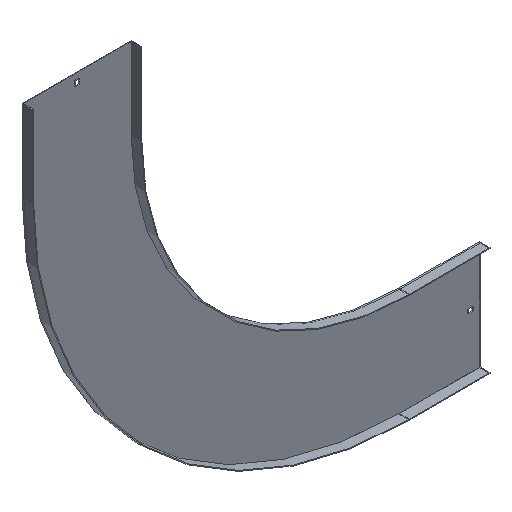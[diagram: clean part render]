
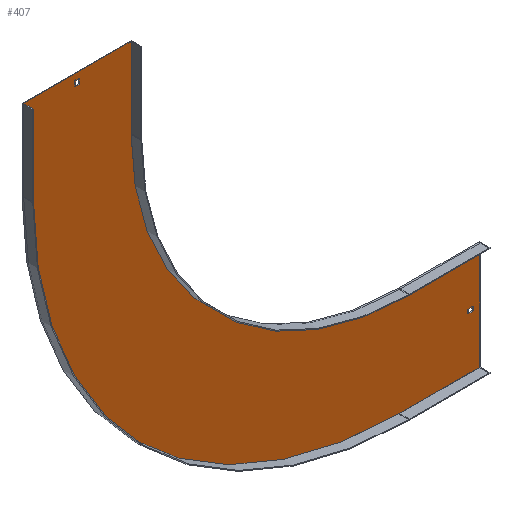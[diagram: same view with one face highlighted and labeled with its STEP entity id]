
A CAD part, isometric view. The second image highlights one B-rep face of the part: STEP entity #407.
In plain terms, the highlighted planar face has unit normal (0, -1, 0).
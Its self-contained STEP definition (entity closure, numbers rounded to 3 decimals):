
#14 = LINE ( 'NONE', #604, #360 ) ;
#15 = ORIENTED_EDGE ( 'NONE', *, *, #248, .F. ) ;
#24 = VERTEX_POINT ( 'NONE', #210 ) ;
#29 = VERTEX_POINT ( 'NONE', #459 ) ;
#35 = CARTESIAN_POINT ( 'NONE',  ( -500., -1.5, 0. ) ) ;
#43 = EDGE_CURVE ( 'NONE', #707, #386, #745, .T. ) ;
#47 = CARTESIAN_POINT ( 'NONE',  ( -603.25, -1.5, 138. ) ) ;
#65 = CARTESIAN_POINT ( 'NONE',  ( 138., -1.5, -603.25 ) ) ;
#67 = CARTESIAN_POINT ( 'NONE',  ( 150., -1.5, -700. ) ) ;
#74 = VERTEX_POINT ( 'NONE', #35 ) ;
#75 = ORIENTED_EDGE ( 'NONE', *, *, #394, .F. ) ;
#77 = ORIENTED_EDGE ( 'NONE', *, *, #829, .F. ) ;
#78 = VECTOR ( 'NONE', #415, 1000. ) ;
#82 = AXIS2_PLACEMENT_3D ( 'NONE', #855, #793, #731 ) ;
#87 = CARTESIAN_POINT ( 'NONE',  ( -701.5, -1.5, 150. ) ) ;
#88 = VERTEX_POINT ( 'NONE', #501 ) ;
#99 = VECTOR ( 'NONE', #455, 1000. ) ;
#106 = EDGE_CURVE ( 'NONE', #723, #24, #109, .T. ) ;
#109 = LINE ( 'NONE', #571, #464 ) ;
#114 = VERTEX_POINT ( 'NONE', #845 ) ;
#118 = CARTESIAN_POINT ( 'NONE',  ( 0., -1.5, 0. ) ) ;
#119 = VERTEX_POINT ( 'NONE', #416 ) ;
#122 = CARTESIAN_POINT ( 'NONE',  ( 0., -1.5, -596.75 ) ) ;
#125 = EDGE_CURVE ( 'NONE', #675, #74, #355, .T. ) ;
#126 = DIRECTION ( 'NONE',  ( -1., 0., 0. ) ) ;
#132 = PLANE ( 'NONE',  #82 ) ;
#141 = DIRECTION ( 'NONE',  ( 0., 1., 0. ) ) ;
#143 = CARTESIAN_POINT ( 'NONE',  ( -603.25, -1.5, 0. ) ) ;
#152 = DIRECTION ( 'NONE',  ( 0., 0., -1. ) ) ;
#165 = DIRECTION ( 'NONE',  ( 1., 0., 0. ) ) ;
#172 = EDGE_CURVE ( 'NONE', #242, #723, #554, .T. ) ;
#183 = FACE_OUTER_BOUND ( 'NONE', #588, .T. ) ;
#193 = CARTESIAN_POINT ( 'NONE',  ( 129., -1.5, -603.25 ) ) ;
#194 = LINE ( 'NONE', #800, #309 ) ;
#198 = VECTOR ( 'NONE', #216, 1000. ) ;
#207 = VERTEX_POINT ( 'NONE', #674 ) ;
#210 = CARTESIAN_POINT ( 'NONE',  ( 150., -1.5, -700. ) ) ;
#212 = VECTOR ( 'NONE', #126, 1000. ) ;
#216 = DIRECTION ( 'NONE',  ( 1., 0., 0. ) ) ;
#225 = EDGE_CURVE ( 'NONE', #114, #707, #380, .T. ) ;
#240 = VECTOR ( 'NONE', #659, 1000. ) ;
#242 = VERTEX_POINT ( 'NONE', #542 ) ;
#246 = FACE_BOUND ( 'NONE', #413, .T. ) ;
#248 = EDGE_CURVE ( 'NONE', #88, #292, #14, .T. ) ;
#252 = ORIENTED_EDGE ( 'NONE', *, *, #769, .F. ) ;
#254 = AXIS2_PLACEMENT_3D ( 'NONE', #118, #797, #722 ) ;
#279 = VERTEX_POINT ( 'NONE', #533 ) ;
#283 = CARTESIAN_POINT ( 'NONE',  ( 0., -1.5, 138. ) ) ;
#285 = CIRCLE ( 'NONE', #254, 500. ) ;
#287 = CARTESIAN_POINT ( 'NONE',  ( 150., -1.5, -500. ) ) ;
#292 = VERTEX_POINT ( 'NONE', #193 ) ;
#298 = LINE ( 'NONE', #442, #481 ) ;
#307 = LINE ( 'NONE', #584, #99 ) ;
#309 = VECTOR ( 'NONE', #807, 1000. ) ;
#315 = ORIENTED_EDGE ( 'NONE', *, *, #808, .F. ) ;
#318 = ORIENTED_EDGE ( 'NONE', *, *, #600, .T. ) ;
#319 = DIRECTION ( 'NONE',  ( -1., 0., 0. ) ) ;
#321 = CARTESIAN_POINT ( 'NONE',  ( -603.25, -1.5, 129. ) ) ;
#322 = ORIENTED_EDGE ( 'NONE', *, *, #43, .T. ) ;
#330 = VERTEX_POINT ( 'NONE', #65 ) ;
#346 = CARTESIAN_POINT ( 'NONE',  ( 138., -1.5, -596.75 ) ) ;
#355 = LINE ( 'NONE', #768, #78 ) ;
#360 = VECTOR ( 'NONE', #152, 1000. ) ;
#373 = EDGE_CURVE ( 'NONE', #29, #119, #507, .T. ) ;
#377 = FACE_BOUND ( 'NONE', #733, .T. ) ;
#379 = LINE ( 'NONE', #67, #725 ) ;
#380 = LINE ( 'NONE', #759, #662 ) ;
#383 = DIRECTION ( 'NONE',  ( 0., 0., -1. ) ) ;
#385 = DIRECTION ( 'NONE',  ( 0., 0., 1. ) ) ;
#386 = VERTEX_POINT ( 'NONE', #47 ) ;
#394 = EDGE_CURVE ( 'NONE', #119, #207, #307, .T. ) ;
#399 = VECTOR ( 'NONE', #165, 1000. ) ;
#407 = ADVANCED_FACE ( 'NONE', ( #246, #183, #377 ), #132, .T. ) ;
#413 = EDGE_LOOP ( 'NONE', ( #252, #315, #658, #15 ) ) ;
#415 = DIRECTION ( 'NONE',  ( 0., 0., -1. ) ) ;
#416 = CARTESIAN_POINT ( 'NONE',  ( -700., -1.5, 0. ) ) ;
#423 = EDGE_CURVE ( 'NONE', #74, #242, #285, .T. ) ;
#442 = CARTESIAN_POINT ( 'NONE',  ( 0., -1.5, -603.25 ) ) ;
#453 = ORIENTED_EDGE ( 'NONE', *, *, #856, .F. ) ;
#455 = DIRECTION ( 'NONE',  ( 0., 0., 1. ) ) ;
#459 = CARTESIAN_POINT ( 'NONE',  ( 0., -1.5, -700. ) ) ;
#464 = VECTOR ( 'NONE', #832, 1000. ) ;
#466 = AXIS2_PLACEMENT_3D ( 'NONE', #740, #141, #383 ) ;
#467 = ORIENTED_EDGE ( 'NONE', *, *, #373, .F. ) ;
#481 = VECTOR ( 'NONE', #632, 1000. ) ;
#501 = CARTESIAN_POINT ( 'NONE',  ( 129., -1.5, -596.75 ) ) ;
#507 = CIRCLE ( 'NONE', #466, 700. ) ;
#533 = CARTESIAN_POINT ( 'NONE',  ( -596.75, -1.5, 138. ) ) ;
#535 = ORIENTED_EDGE ( 'NONE', *, *, #106, .F. ) ;
#538 = LINE ( 'NONE', #87, #627 ) ;
#542 = CARTESIAN_POINT ( 'NONE',  ( 0., -1.5, -500. ) ) ;
#545 = CARTESIAN_POINT ( 'NONE',  ( 138., -1.5, 0. ) ) ;
#549 = DIRECTION ( 'NONE',  ( 1., 0., 0. ) ) ;
#552 = ORIENTED_EDGE ( 'NONE', *, *, #172, .F. ) ;
#554 = LINE ( 'NONE', #831, #399 ) ;
#567 = CARTESIAN_POINT ( 'NONE',  ( -500., -1.5, 150. ) ) ;
#571 = CARTESIAN_POINT ( 'NONE',  ( 150., -1.5, -498.5 ) ) ;
#581 = VERTEX_POINT ( 'NONE', #346 ) ;
#584 = CARTESIAN_POINT ( 'NONE',  ( -700., -1.5, 0. ) ) ;
#588 = EDGE_LOOP ( 'NONE', ( #453, #75, #467, #77, #535, #552, #654, #782 ) ) ;
#589 = ORIENTED_EDGE ( 'NONE', *, *, #706, .T. ) ;
#600 = EDGE_CURVE ( 'NONE', #386, #279, #630, .T. ) ;
#604 = CARTESIAN_POINT ( 'NONE',  ( 129., -1.5, 0. ) ) ;
#627 = VECTOR ( 'NONE', #549, 1000. ) ;
#630 = LINE ( 'NONE', #283, #198 ) ;
#632 = DIRECTION ( 'NONE',  ( 1., 0., 0. ) ) ;
#654 = ORIENTED_EDGE ( 'NONE', *, *, #423, .F. ) ;
#658 = ORIENTED_EDGE ( 'NONE', *, *, #671, .F. ) ;
#659 = DIRECTION ( 'NONE',  ( 0., 0., 1. ) ) ;
#662 = VECTOR ( 'NONE', #814, 1000. ) ;
#671 = EDGE_CURVE ( 'NONE', #292, #330, #298, .T. ) ;
#674 = CARTESIAN_POINT ( 'NONE',  ( -700., -1.5, 150. ) ) ;
#675 = VERTEX_POINT ( 'NONE', #567 ) ;
#706 = EDGE_CURVE ( 'NONE', #279, #114, #194, .T. ) ;
#707 = VERTEX_POINT ( 'NONE', #321 ) ;
#719 = LINE ( 'NONE', #122, #212 ) ;
#722 = DIRECTION ( 'NONE',  ( 0., 0., -1. ) ) ;
#723 = VERTEX_POINT ( 'NONE', #287 ) ;
#725 = VECTOR ( 'NONE', #319, 1000. ) ;
#731 = DIRECTION ( 'NONE',  ( 0., 0., -1. ) ) ;
#733 = EDGE_LOOP ( 'NONE', ( #318, #589, #773, #322 ) ) ;
#740 = CARTESIAN_POINT ( 'NONE',  ( 0., -1.5, 0. ) ) ;
#745 = LINE ( 'NONE', #143, #796 ) ;
#753 = LINE ( 'NONE', #545, #240 ) ;
#759 = CARTESIAN_POINT ( 'NONE',  ( 0., -1.5, 129. ) ) ;
#768 = CARTESIAN_POINT ( 'NONE',  ( -500., -1.5, 150. ) ) ;
#769 = EDGE_CURVE ( 'NONE', #581, #88, #719, .T. ) ;
#773 = ORIENTED_EDGE ( 'NONE', *, *, #225, .T. ) ;
#782 = ORIENTED_EDGE ( 'NONE', *, *, #125, .F. ) ;
#793 = DIRECTION ( 'NONE',  ( 0., -1., 0. ) ) ;
#796 = VECTOR ( 'NONE', #385, 1000. ) ;
#797 = DIRECTION ( 'NONE',  ( 0., -1., 0. ) ) ;
#800 = CARTESIAN_POINT ( 'NONE',  ( -596.75, -1.5, 0. ) ) ;
#807 = DIRECTION ( 'NONE',  ( 0., 0., -1. ) ) ;
#808 = EDGE_CURVE ( 'NONE', #330, #581, #753, .T. ) ;
#814 = DIRECTION ( 'NONE',  ( -1., 0., 0. ) ) ;
#829 = EDGE_CURVE ( 'NONE', #24, #29, #379, .T. ) ;
#831 = CARTESIAN_POINT ( 'NONE',  ( 0., -1.5, -500. ) ) ;
#832 = DIRECTION ( 'NONE',  ( 0., 0., -1. ) ) ;
#845 = CARTESIAN_POINT ( 'NONE',  ( -596.75, -1.5, 129. ) ) ;
#855 = CARTESIAN_POINT ( 'NONE',  ( 0., -1.5, 0. ) ) ;
#856 = EDGE_CURVE ( 'NONE', #207, #675, #538, .T. ) ;
